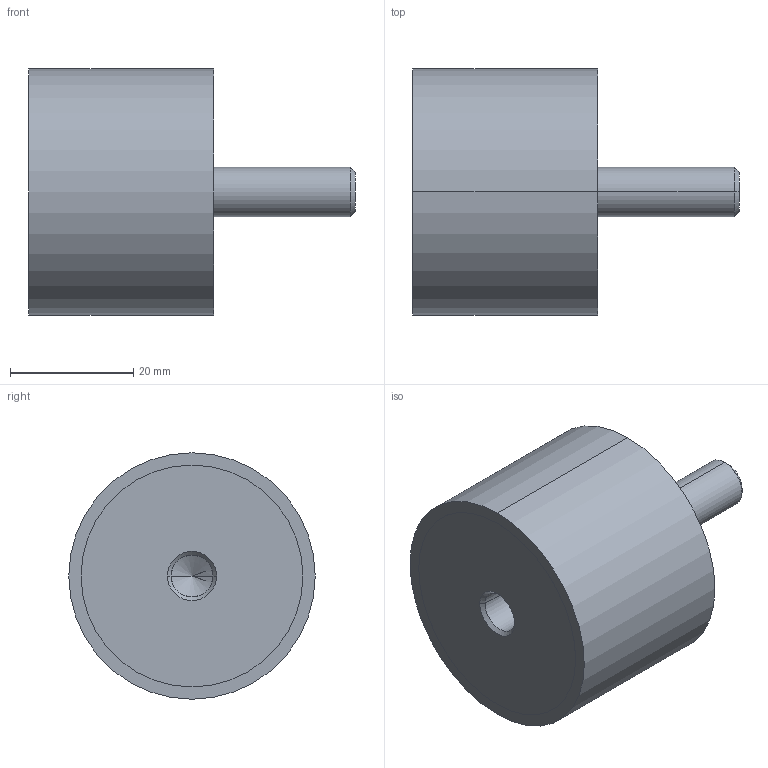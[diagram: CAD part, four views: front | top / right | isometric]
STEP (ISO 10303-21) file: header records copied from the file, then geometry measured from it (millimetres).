
FILE_DESCRIPTION (( 'STEP AP214' ), '1' );
FILE_NAME ('351-40-30-M8-ES-70.step', '2025-07-23T09:42:37', ( '' ), ( '' ), 'SwSTEP 2.0', 'SolidWorks 2022', '' );
FILE_SCHEMA (( 'AUTOMOTIVE_DESIGN' ));
Length unit declared in the file: millimetre
Products named in the file (1): 351-40-30-M8-ES-70
Bounding box: 53 x 40 x 40 mm (x, y, z)
Volume: 38474.7 mm3; surface area: 7041.5 mm2
Topology: 1 solids, 1 shells, 24 faces, 48 edges, 29 vertices
Faces by surface type: cylinder 12, cone 6, plane 6
Entity records: 740 total; most frequent: DIRECTION 124, CARTESIAN_POINT 100, ORIENTED_EDGE 92, AXIS2_PLACEMENT_3D 53, EDGE_CURVE 46, EDGE_LOOP 29, VERTEX_POINT 29, CIRCLE 28
